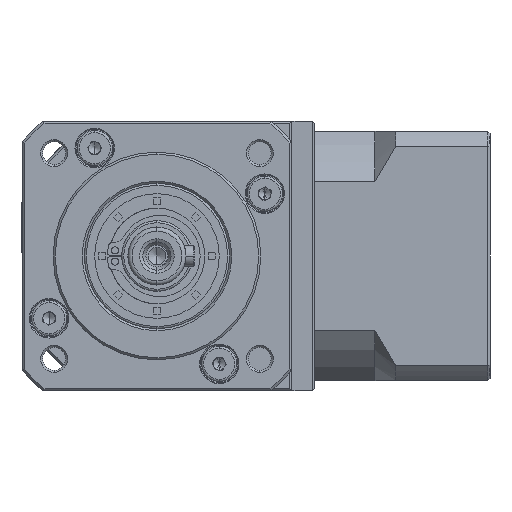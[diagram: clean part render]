
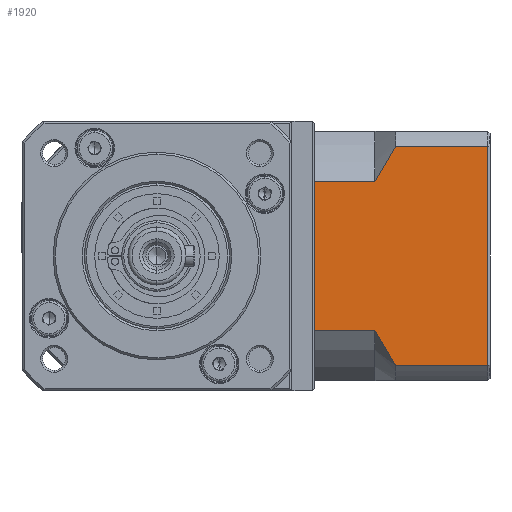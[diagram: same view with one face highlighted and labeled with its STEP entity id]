
A CAD part, left-side view. The second image highlights one B-rep face of the part: STEP entity #1920.
In plain terms, the highlighted planar face has unit normal (-1, 0, 0).
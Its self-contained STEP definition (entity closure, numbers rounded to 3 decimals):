
#1920 = ADVANCED_FACE ( 'NONE', ( #68880 ), #59881, .F. ) ;
#5025 = VERTEX_POINT ( 'NONE', #80393 ) ;
#5358 = CARTESIAN_POINT ( 'NONE',  ( -32.751, -79.201, -82.284 ) ) ;
#7219 = VERTEX_POINT ( 'NONE', #103766 ) ;
#8235 = LINE ( 'NONE', #94369, #80941 ) ;
#8594 = DIRECTION ( 'NONE',  ( 0., 1., 0. ) ) ;
#9395 = VERTEX_POINT ( 'NONE', #72917 ) ;
#10854 = DIRECTION ( 'NONE',  ( 0., -1., 0. ) ) ;
#13470 = CARTESIAN_POINT ( 'NONE',  ( -32.751, -80.753, -87.83 ) ) ;
#15015 = CARTESIAN_POINT ( 'NONE',  ( -32.751, -64.701, -90.714 ) ) ;
#19316 = EDGE_LOOP ( 'NONE', ( #27509, #32086, #54975, #177563, #70924, #132228, #98215, #125505 ) ) ;
#19981 = DIRECTION ( 'NONE',  ( 0., -1., 0. ) ) ;
#22029 = DIRECTION ( 'NONE',  ( 0., 0., -1. ) ) ;
#27509 = ORIENTED_EDGE ( 'NONE', *, *, #175000, .F. ) ;
#28024 = CARTESIAN_POINT ( 'NONE',  ( -32.751, -79.201, -90.714 ) ) ;
#32086 = ORIENTED_EDGE ( 'NONE', *, *, #77785, .T. ) ;
#36027 = CARTESIAN_POINT ( 'NONE',  ( -32.751, -79.201, -90.714 ) ) ;
#40738 = LINE ( 'NONE', #5358, #151992 ) ;
#42437 = EDGE_CURVE ( 'NONE', #136725, #104835, #156697, .T. ) ;
#46981 = CARTESIAN_POINT ( 'NONE',  ( -32.751, -79.951, -128.226 ) ) ;
#54106 = CARTESIAN_POINT ( 'NONE',  ( -32.751, -79.201, -90.714 ) ) ;
#54972 = CARTESIAN_POINT ( 'NONE',  ( -32.751, -79.201, -135.199 ) ) ;
#54975 = ORIENTED_EDGE ( 'NONE', *, *, #178633, .F. ) ;
#55860 = EDGE_CURVE ( 'NONE', #7219, #9395, #111589, .T. ) ;
#57420 = B_SPLINE_CURVE_WITH_KNOTS ( 'NONE', 3,
 ( #119223, #46981, #163009, #76111, #177577, #90721 ),
 .UNSPECIFIED., .F., .F.,
 ( 4, 2, 4 ),
 ( 0.1, 0.104, 0.109 ),
 .UNSPECIFIED. ) ;
#58238 = DIRECTION ( 'NONE',  ( 1., 0., 0. ) ) ;
#58472 = CARTESIAN_POINT ( 'NONE',  ( -32.751, -106.901, -138.741 ) ) ;
#58721 = VECTOR ( 'NONE', #8594, 1000. ) ;
#59881 = PLANE ( 'NONE',  #144521 ) ;
#64290 = CARTESIAN_POINT ( 'NONE',  ( -32.751, -106.401, -82.284 ) ) ;
#68880 = FACE_OUTER_BOUND ( 'NONE', #19316, .T. ) ;
#70638 = CARTESIAN_POINT ( 'NONE',  ( -32.751, -84.201, -82.284 ) ) ;
#70924 = ORIENTED_EDGE ( 'NONE', *, *, #42437, .F. ) ;
#72310 = CARTESIAN_POINT ( 'NONE',  ( -32.751, -84.201, -135.199 ) ) ;
#72917 = CARTESIAN_POINT ( 'NONE',  ( -32.751, -64.701, -126.769 ) ) ;
#73037 = VECTOR ( 'NONE', #124234, 1000. ) ;
#76111 = CARTESIAN_POINT ( 'NONE',  ( -32.751, -82.426, -132.456 ) ) ;
#77785 = EDGE_CURVE ( 'NONE', #84509, #175241, #136844, .T. ) ;
#80393 = CARTESIAN_POINT ( 'NONE',  ( -32.751, -84.201, -82.284 ) ) ;
#80941 = VECTOR ( 'NONE', #22029, 1000. ) ;
#84509 = VERTEX_POINT ( 'NONE', #181578 ) ;
#85239 = CARTESIAN_POINT ( 'NONE',  ( -32.751, -83.302, -83.644 ) ) ;
#90721 = CARTESIAN_POINT ( 'NONE',  ( -32.751, -84.201, -135.199 ) ) ;
#93707 = VECTOR ( 'NONE', #159235, 1000. ) ;
#94369 = CARTESIAN_POINT ( 'NONE',  ( -32.751, -64.701, -138.741 ) ) ;
#98215 = ORIENTED_EDGE ( 'NONE', *, *, #55860, .F. ) ;
#100421 = CARTESIAN_POINT ( 'NONE',  ( -32.751, -82.428, -85.023 ) ) ;
#102865 = DIRECTION ( 'NONE',  ( 0., 1., 0. ) ) ;
#103766 = CARTESIAN_POINT ( 'NONE',  ( -32.751, -79.201, -126.769 ) ) ;
#104835 = VERTEX_POINT ( 'NONE', #36027 ) ;
#111589 = LINE ( 'NONE', #138864, #73037 ) ;
#113535 = VECTOR ( 'NONE', #10854, 1000. ) ;
#114962 = CARTESIAN_POINT ( 'NONE',  ( -32.751, -79.949, -89.262 ) ) ;
#119223 = CARTESIAN_POINT ( 'NONE',  ( -32.751, -79.201, -126.769 ) ) ;
#123911 = EDGE_CURVE ( 'NONE', #136725, #9395, #8235, .T. ) ;
#124234 = DIRECTION ( 'NONE',  ( 0., 1., 0. ) ) ;
#125505 = ORIENTED_EDGE ( 'NONE', *, *, #146989, .T. ) ;
#127319 = VERTEX_POINT ( 'NONE', #72310 ) ;
#132228 = ORIENTED_EDGE ( 'NONE', *, *, #123911, .T. ) ;
#136725 = VERTEX_POINT ( 'NONE', #15015 ) ;
#136844 = LINE ( 'NONE', #144688, #93707 ) ;
#138864 = CARTESIAN_POINT ( 'NONE',  ( -32.751, -79.201, -126.769 ) ) ;
#144521 = AXIS2_PLACEMENT_3D ( 'NONE', #58472, #58238, #102865 ) ;
#144688 = CARTESIAN_POINT ( 'NONE',  ( -32.751, -106.401, -138.741 ) ) ;
#146989 = EDGE_CURVE ( 'NONE', #7219, #127319, #57420, .T. ) ;
#151992 = VECTOR ( 'NONE', #19981, 1000. ) ;
#156697 = LINE ( 'NONE', #54106, #113535 ) ;
#159235 = DIRECTION ( 'NONE',  ( 0., 0., 1. ) ) ;
#163009 = CARTESIAN_POINT ( 'NONE',  ( -32.751, -80.752, -129.651 ) ) ;
#168886 = EDGE_CURVE ( 'NONE', #5025, #104835, #171178, .T. ) ;
#169883 = LINE ( 'NONE', #54972, #58721 ) ;
#171178 = B_SPLINE_CURVE_WITH_KNOTS ( 'NONE', 3,
 ( #70638, #85239, #100421, #13470, #114962, #28024 ),
 .UNSPECIFIED., .F., .F.,
 ( 4, 2, 4 ),
 ( 0.052, 0.057, 0.062 ),
 .UNSPECIFIED. ) ;
#175000 = EDGE_CURVE ( 'NONE', #84509, #127319, #169883, .T. ) ;
#175241 = VERTEX_POINT ( 'NONE', #64290 ) ;
#177563 = ORIENTED_EDGE ( 'NONE', *, *, #168886, .T. ) ;
#177577 = CARTESIAN_POINT ( 'NONE',  ( -32.751, -83.3, -133.836 ) ) ;
#178633 = EDGE_CURVE ( 'NONE', #5025, #175241, #40738, .T. ) ;
#181578 = CARTESIAN_POINT ( 'NONE',  ( -32.751, -106.401, -135.199 ) ) ;
